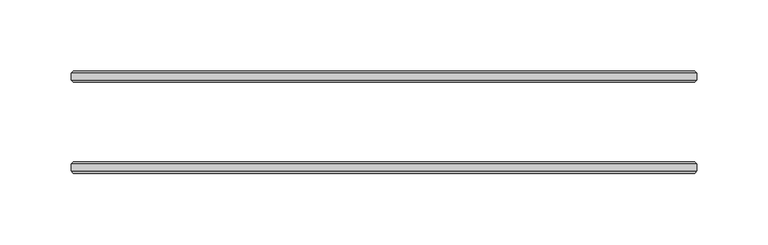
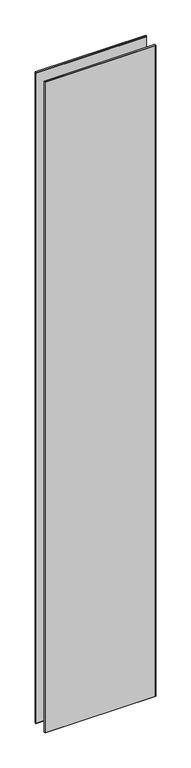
"""IFC4 building model written with IfcOpenShell, lengths in millimetres: plate geometry, 3-AMG-2-Панель двойной витраж 8, 10 : Смещение 32 Толщина 8mm."""

from ifc_helpers import new_model, si_unit, origin, place, context, project, spatial, faceted_brep, source, transform, mapped, element, save


def plate_e51c2bcd(model_context):
    return source(origin(), model_context, "Body", "Brep", [
        faceted_brep([(220.0, -34.4961653, 2722.8), (220.0, -29.5038347, 2722.8), (-220.0, -29.5038347, 2722.8), (-220.0, -34.4961653, 2722.8), (220.0, -29.5038347, -7.0), (220.0, -34.4961653, -7.0), (-220.0, -34.4961653, -7.0), (-220.0, -29.5038347, -7.0), (-218.4961653, -28.0, 2721.2961653), (218.4961653, -28.0, 2721.2961653), (218.4961653, -28.0, -5.5039422), (-218.4961653, -28.0, -5.5039422), (218.4961653, -36.0, 2721.2961653), (-218.4961653, -36.0, 2721.2961653), (-218.4961653, -36.0, -5.4961653), (218.4961653, -36.0, -5.4961653)], [[[0, 1, 2, 3]], [[4, 5, 6, 7]], [[8, 9, 10, 11]], [[3, 2, 7, 6]], [[12, 13, 14, 15]], [[1, 0, 5, 4]], [[1, 4, 10, 9]], [[5, 0, 12, 15]], [[0, 3, 13, 12]], [[2, 1, 9, 8]], [[7, 2, 8, 11]], [[3, 6, 14, 13]], [[6, 5, 15, 14]], [[4, 7, 11, 10]]]),
        faceted_brep([(220.0, 29.5038347, 2722.8), (220.0, 34.4961653, 2722.8), (-220.0, 34.4961653, 2722.8), (-220.0, 29.5038347, 2722.8), (220.0, 34.4961653, -7.0), (220.0, 29.5038347, -7.0), (-220.0, 29.5038347, -7.0), (-220.0, 34.4961653, -7.0), (-218.4961653, 36.0, 2721.2961653), (218.4961653, 36.0, 2721.2961653), (218.4961653, 36.0, -5.5039422), (-218.4961653, 36.0, -5.5039422), (218.4961653, 28.0, 2721.2961653), (-218.4961653, 28.0, 2721.2961653), (-218.4961653, 28.0, -5.4961653), (218.4961653, 28.0, -5.4961653)], [[[0, 1, 2, 3]], [[4, 5, 6, 7]], [[8, 9, 10, 11]], [[3, 2, 7, 6]], [[12, 13, 14, 15]], [[1, 0, 5, 4]], [[1, 4, 10, 9]], [[5, 0, 12, 15]], [[7, 2, 8, 11]], [[3, 6, 14, 13]], [[0, 3, 13, 12]], [[2, 1, 9, 8]], [[6, 5, 15, 14]], [[4, 7, 11, 10]]]),
    ])


if __name__ == "__main__":
    model = new_model("IFC4")
    model_context = context("Model", 3, world=origin())
    ifc_project = project(units=[si_unit("LENGTHUNIT", "METRE", prefix="MILLI")], contexts=[model_context])
    site = spatial("IfcSite", under=ifc_project)
    building = spatial("IfcBuilding", under=site)
    placement = place(None, origin())
    plate_shape = plate_e51c2bcd(model_context)
    element("IfcPlate", 1, ObjectType="3-AMG-2-Панель двойной витраж 8, 10 : Смещение 32 Толщина 8mm", at=placement, inside=building, context=model_context, shape_type="MappedRepresentation", body=[
        mapped(plate_shape, transform((0.0, 0.0, 0.0), x_axis=(1.0, 0.0, 0.0), y_axis=(0.0, 1.0, 0.0), z_axis=(0.0, 0.0, 1.0))),
    ])
    save(model, "model.ifc")
